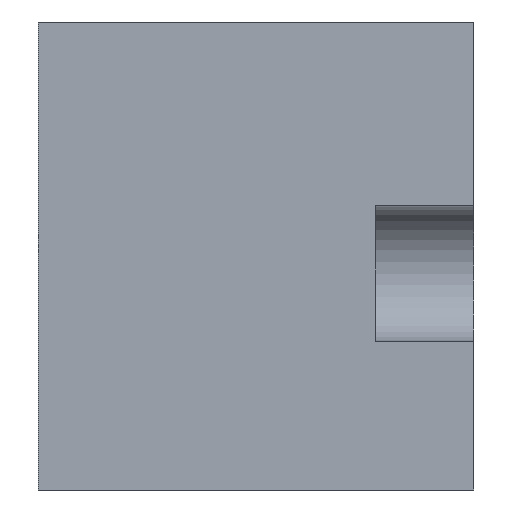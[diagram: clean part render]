
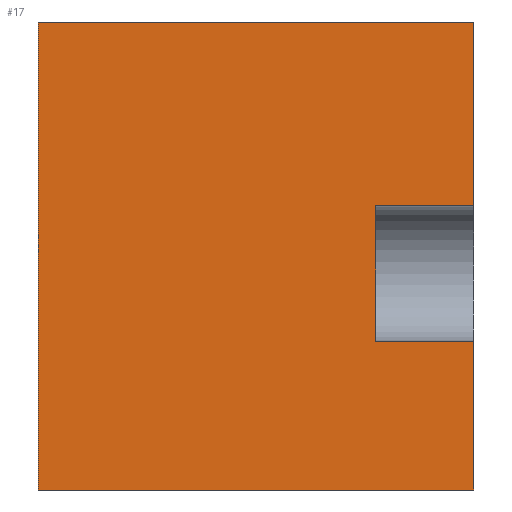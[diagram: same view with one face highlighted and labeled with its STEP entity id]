
A CAD part, left-side view. The second image highlights one B-rep face of the part: STEP entity #17.
In plain terms, the highlighted planar face has unit normal (-1, 0, 0).
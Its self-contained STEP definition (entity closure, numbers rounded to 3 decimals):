
#17 = ADVANCED_FACE('f000',(#18),#32,.F.);
#18 = FACE_BOUND('',#19,.F.);
#19 = EDGE_LOOP('',(#20,#55,#83,#111,#139,#162,#190,#218));
#20 = ORIENTED_EDGE('',*,*,#21,.F.);
#21 = EDGE_CURVE('',#22,#24,#26,.T.);
#22 = VERTEX_POINT('',#23);
#23 = CARTESIAN_POINT('',(0.,0.,0.));
#24 = VERTEX_POINT('',#25);
#25 = CARTESIAN_POINT('',(0.,0.,12.158));
#26 = SURFACE_CURVE('',#27,(#31,#43),.PCURVE_S1.);
#27 = LINE('',#28,#29);
#28 = CARTESIAN_POINT('',(0.,0.,0.));
#29 = VECTOR('',#30,1.);
#30 = DIRECTION('',(0.,0.,1.));
#31 = PCURVE('',#32,#37);
#32 = PLANE('',#33);
#33 = AXIS2_PLACEMENT_3D('',#34,#35,#36);
#34 = CARTESIAN_POINT('',(0.,0.,0.));
#35 = DIRECTION('',(1.,0.,-0.));
#36 = DIRECTION('',(0.,0.,1.));
#37 = DEFINITIONAL_REPRESENTATION('',(#38),#42);
#38 = LINE('',#39,#40);
#39 = CARTESIAN_POINT('',(0.,0.));
#40 = VECTOR('',#41,1.);
#41 = DIRECTION('',(1.,0.));
#42 = ( GEOMETRIC_REPRESENTATION_CONTEXT(2) 
PARAMETRIC_REPRESENTATION_CONTEXT() REPRESENTATION_CONTEXT('2D SPACE',''
  ) );
#43 = PCURVE('',#44,#49);
#44 = PLANE('',#45);
#45 = AXIS2_PLACEMENT_3D('',#46,#47,#48);
#46 = CARTESIAN_POINT('',(0.,0.,0.));
#47 = DIRECTION('',(-0.,1.,0.));
#48 = DIRECTION('',(0.,0.,1.));
#49 = DEFINITIONAL_REPRESENTATION('',(#50),#54);
#50 = LINE('',#51,#52);
#51 = CARTESIAN_POINT('',(0.,0.));
#52 = VECTOR('',#53,1.);
#53 = DIRECTION('',(1.,0.));
#54 = ( GEOMETRIC_REPRESENTATION_CONTEXT(2) 
PARAMETRIC_REPRESENTATION_CONTEXT() REPRESENTATION_CONTEXT('2D SPACE',''
  ) );
#55 = ORIENTED_EDGE('',*,*,#56,.T.);
#56 = EDGE_CURVE('',#22,#57,#59,.T.);
#57 = VERTEX_POINT('',#58);
#58 = CARTESIAN_POINT('',(0.,35.622,0.));
#59 = SURFACE_CURVE('',#60,(#64,#71),.PCURVE_S1.);
#60 = LINE('',#61,#62);
#61 = CARTESIAN_POINT('',(0.,0.,0.));
#62 = VECTOR('',#63,1.);
#63 = DIRECTION('',(-0.,1.,0.));
#64 = PCURVE('',#32,#65);
#65 = DEFINITIONAL_REPRESENTATION('',(#66),#70);
#66 = LINE('',#67,#68);
#67 = CARTESIAN_POINT('',(0.,0.));
#68 = VECTOR('',#69,1.);
#69 = DIRECTION('',(0.,-1.));
#70 = ( GEOMETRIC_REPRESENTATION_CONTEXT(2) 
PARAMETRIC_REPRESENTATION_CONTEXT() REPRESENTATION_CONTEXT('2D SPACE',''
  ) );
#71 = PCURVE('',#72,#77);
#72 = PLANE('',#73);
#73 = AXIS2_PLACEMENT_3D('',#74,#75,#76);
#74 = CARTESIAN_POINT('',(0.,0.,0.));
#75 = DIRECTION('',(0.,0.,1.));
#76 = DIRECTION('',(1.,0.,-0.));
#77 = DEFINITIONAL_REPRESENTATION('',(#78),#82);
#78 = LINE('',#79,#80);
#79 = CARTESIAN_POINT('',(0.,0.));
#80 = VECTOR('',#81,1.);
#81 = DIRECTION('',(0.,1.));
#82 = ( GEOMETRIC_REPRESENTATION_CONTEXT(2) 
PARAMETRIC_REPRESENTATION_CONTEXT() REPRESENTATION_CONTEXT('2D SPACE',''
  ) );
#83 = ORIENTED_EDGE('',*,*,#84,.T.);
#84 = EDGE_CURVE('',#57,#85,#87,.T.);
#85 = VERTEX_POINT('',#86);
#86 = CARTESIAN_POINT('',(0.,35.622,38.314));
#87 = SURFACE_CURVE('',#88,(#92,#99),.PCURVE_S1.);
#88 = LINE('',#89,#90);
#89 = CARTESIAN_POINT('',(0.,35.622,0.));
#90 = VECTOR('',#91,1.);
#91 = DIRECTION('',(0.,0.,1.));
#92 = PCURVE('',#32,#93);
#93 = DEFINITIONAL_REPRESENTATION('',(#94),#98);
#94 = LINE('',#95,#96);
#95 = CARTESIAN_POINT('',(0.,-35.622));
#96 = VECTOR('',#97,1.);
#97 = DIRECTION('',(1.,0.));
#98 = ( GEOMETRIC_REPRESENTATION_CONTEXT(2) 
PARAMETRIC_REPRESENTATION_CONTEXT() REPRESENTATION_CONTEXT('2D SPACE',''
  ) );
#99 = PCURVE('',#100,#105);
#100 = PLANE('',#101);
#101 = AXIS2_PLACEMENT_3D('',#102,#103,#104);
#102 = CARTESIAN_POINT('',(0.,35.622,0.));
#103 = DIRECTION('',(-0.,1.,0.));
#104 = DIRECTION('',(0.,0.,1.));
#105 = DEFINITIONAL_REPRESENTATION('',(#106),#110);
#106 = LINE('',#107,#108);
#107 = CARTESIAN_POINT('',(0.,0.));
#108 = VECTOR('',#109,1.);
#109 = DIRECTION('',(1.,0.));
#110 = ( GEOMETRIC_REPRESENTATION_CONTEXT(2) 
PARAMETRIC_REPRESENTATION_CONTEXT() REPRESENTATION_CONTEXT('2D SPACE',''
  ) );
#111 = ORIENTED_EDGE('',*,*,#112,.F.);
#112 = EDGE_CURVE('',#113,#85,#115,.T.);
#113 = VERTEX_POINT('',#114);
#114 = CARTESIAN_POINT('',(0.,0.,38.314));
#115 = SURFACE_CURVE('',#116,(#120,#127),.PCURVE_S1.);
#116 = LINE('',#117,#118);
#117 = CARTESIAN_POINT('',(0.,0.,38.314));
#118 = VECTOR('',#119,1.);
#119 = DIRECTION('',(-0.,1.,0.));
#120 = PCURVE('',#32,#121);
#121 = DEFINITIONAL_REPRESENTATION('',(#122),#126);
#122 = LINE('',#123,#124);
#123 = CARTESIAN_POINT('',(38.314,0.));
#124 = VECTOR('',#125,1.);
#125 = DIRECTION('',(0.,-1.));
#126 = ( GEOMETRIC_REPRESENTATION_CONTEXT(2) 
PARAMETRIC_REPRESENTATION_CONTEXT() REPRESENTATION_CONTEXT('2D SPACE',''
  ) );
#127 = PCURVE('',#128,#133);
#128 = PLANE('',#129);
#129 = AXIS2_PLACEMENT_3D('',#130,#131,#132);
#130 = CARTESIAN_POINT('',(0.,0.,38.314));
#131 = DIRECTION('',(0.,0.,1.));
#132 = DIRECTION('',(1.,0.,-0.));
#133 = DEFINITIONAL_REPRESENTATION('',(#134),#138);
#134 = LINE('',#135,#136);
#135 = CARTESIAN_POINT('',(0.,0.));
#136 = VECTOR('',#137,1.);
#137 = DIRECTION('',(0.,1.));
#138 = ( GEOMETRIC_REPRESENTATION_CONTEXT(2) 
PARAMETRIC_REPRESENTATION_CONTEXT() REPRESENTATION_CONTEXT('2D SPACE',''
  ) );
#139 = ORIENTED_EDGE('',*,*,#140,.F.);
#140 = EDGE_CURVE('',#141,#113,#143,.T.);
#141 = VERTEX_POINT('',#142);
#142 = CARTESIAN_POINT('',(0.,0.,23.286));
#143 = SURFACE_CURVE('',#144,(#148,#155),.PCURVE_S1.);
#144 = LINE('',#145,#146);
#145 = CARTESIAN_POINT('',(0.,0.,0.));
#146 = VECTOR('',#147,1.);
#147 = DIRECTION('',(0.,0.,1.));
#148 = PCURVE('',#32,#149);
#149 = DEFINITIONAL_REPRESENTATION('',(#150),#154);
#150 = LINE('',#151,#152);
#151 = CARTESIAN_POINT('',(0.,0.));
#152 = VECTOR('',#153,1.);
#153 = DIRECTION('',(1.,0.));
#154 = ( GEOMETRIC_REPRESENTATION_CONTEXT(2) 
PARAMETRIC_REPRESENTATION_CONTEXT() REPRESENTATION_CONTEXT('2D SPACE',''
  ) );
#155 = PCURVE('',#44,#156);
#156 = DEFINITIONAL_REPRESENTATION('',(#157),#161);
#157 = LINE('',#158,#159);
#158 = CARTESIAN_POINT('',(0.,0.));
#159 = VECTOR('',#160,1.);
#160 = DIRECTION('',(1.,0.));
#161 = ( GEOMETRIC_REPRESENTATION_CONTEXT(2) 
PARAMETRIC_REPRESENTATION_CONTEXT() REPRESENTATION_CONTEXT('2D SPACE',''
  ) );
#162 = ORIENTED_EDGE('',*,*,#163,.T.);
#163 = EDGE_CURVE('',#141,#164,#166,.T.);
#164 = VERTEX_POINT('',#165);
#165 = CARTESIAN_POINT('',(0.,8.024,23.286));
#166 = SURFACE_CURVE('',#167,(#171,#178),.PCURVE_S1.);
#167 = LINE('',#168,#169);
#168 = CARTESIAN_POINT('',(0.,0.,23.286));
#169 = VECTOR('',#170,1.);
#170 = DIRECTION('',(-0.,1.,0.));
#171 = PCURVE('',#32,#172);
#172 = DEFINITIONAL_REPRESENTATION('',(#173),#177);
#173 = LINE('',#174,#175);
#174 = CARTESIAN_POINT('',(23.286,0.));
#175 = VECTOR('',#176,1.);
#176 = DIRECTION('',(0.,-1.));
#177 = ( GEOMETRIC_REPRESENTATION_CONTEXT(2) 
PARAMETRIC_REPRESENTATION_CONTEXT() REPRESENTATION_CONTEXT('2D SPACE',''
  ) );
#178 = PCURVE('',#179,#184);
#179 = PLANE('',#180);
#180 = AXIS2_PLACEMENT_3D('',#181,#182,#183);
#181 = CARTESIAN_POINT('',(26.601,0.,23.286));
#182 = DIRECTION('',(0.,0.,1.));
#183 = DIRECTION('',(-1.,0.,0.));
#184 = DEFINITIONAL_REPRESENTATION('',(#185),#189);
#185 = LINE('',#186,#187);
#186 = CARTESIAN_POINT('',(26.601,0.));
#187 = VECTOR('',#188,1.);
#188 = DIRECTION('',(0.,-1.));
#189 = ( GEOMETRIC_REPRESENTATION_CONTEXT(2) 
PARAMETRIC_REPRESENTATION_CONTEXT() REPRESENTATION_CONTEXT('2D SPACE',''
  ) );
#190 = ORIENTED_EDGE('',*,*,#191,.T.);
#191 = EDGE_CURVE('',#164,#192,#194,.T.);
#192 = VERTEX_POINT('',#193);
#193 = CARTESIAN_POINT('',(0.,8.024,12.158));
#194 = SURFACE_CURVE('',#195,(#199,#206),.PCURVE_S1.);
#195 = LINE('',#196,#197);
#196 = CARTESIAN_POINT('',(0.,8.024,23.286));
#197 = VECTOR('',#198,1.);
#198 = DIRECTION('',(0.,0.,-1.));
#199 = PCURVE('',#32,#200);
#200 = DEFINITIONAL_REPRESENTATION('',(#201),#205);
#201 = LINE('',#202,#203);
#202 = CARTESIAN_POINT('',(23.286,-8.024));
#203 = VECTOR('',#204,1.);
#204 = DIRECTION('',(-1.,0.));
#205 = ( GEOMETRIC_REPRESENTATION_CONTEXT(2) 
PARAMETRIC_REPRESENTATION_CONTEXT() REPRESENTATION_CONTEXT('2D SPACE',''
  ) );
#206 = PCURVE('',#207,#212);
#207 = PLANE('',#208);
#208 = AXIS2_PLACEMENT_3D('',#209,#210,#211);
#209 = CARTESIAN_POINT('',(14.876,8.024,
    17.722));
#210 = DIRECTION('',(-0.,-1.,-0.));
#211 = DIRECTION('',(0.,0.,-1.));
#212 = DEFINITIONAL_REPRESENTATION('',(#213),#217);
#213 = LINE('',#214,#215);
#214 = CARTESIAN_POINT('',(-5.564,-14.876));
#215 = VECTOR('',#216,1.);
#216 = DIRECTION('',(1.,0.));
#217 = ( GEOMETRIC_REPRESENTATION_CONTEXT(2) 
PARAMETRIC_REPRESENTATION_CONTEXT() REPRESENTATION_CONTEXT('2D SPACE',''
  ) );
#218 = ORIENTED_EDGE('',*,*,#219,.F.);
#219 = EDGE_CURVE('',#24,#192,#220,.T.);
#220 = SURFACE_CURVE('',#221,(#225,#232),.PCURVE_S1.);
#221 = LINE('',#222,#223);
#222 = CARTESIAN_POINT('',(0.,0.,12.158));
#223 = VECTOR('',#224,1.);
#224 = DIRECTION('',(-0.,1.,0.));
#225 = PCURVE('',#32,#226);
#226 = DEFINITIONAL_REPRESENTATION('',(#227),#231);
#227 = LINE('',#228,#229);
#228 = CARTESIAN_POINT('',(12.158,0.));
#229 = VECTOR('',#230,1.);
#230 = DIRECTION('',(0.,-1.));
#231 = ( GEOMETRIC_REPRESENTATION_CONTEXT(2) 
PARAMETRIC_REPRESENTATION_CONTEXT() REPRESENTATION_CONTEXT('2D SPACE',''
  ) );
#232 = PCURVE('',#233,#238);
#233 = PLANE('',#234);
#234 = AXIS2_PLACEMENT_3D('',#235,#236,#237);
#235 = CARTESIAN_POINT('',(0.,0.,12.158));
#236 = DIRECTION('',(0.,0.,-1.));
#237 = DIRECTION('',(1.,0.,0.));
#238 = DEFINITIONAL_REPRESENTATION('',(#239),#243);
#239 = LINE('',#240,#241);
#240 = CARTESIAN_POINT('',(0.,0.));
#241 = VECTOR('',#242,1.);
#242 = DIRECTION('',(0.,-1.));
#243 = ( GEOMETRIC_REPRESENTATION_CONTEXT(2) 
PARAMETRIC_REPRESENTATION_CONTEXT() REPRESENTATION_CONTEXT('2D SPACE',''
  ) );
